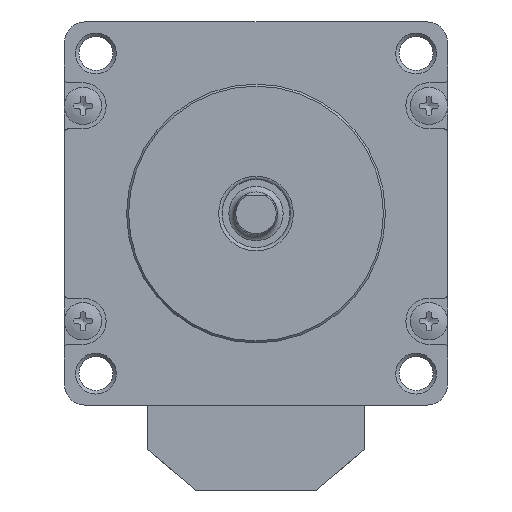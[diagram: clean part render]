
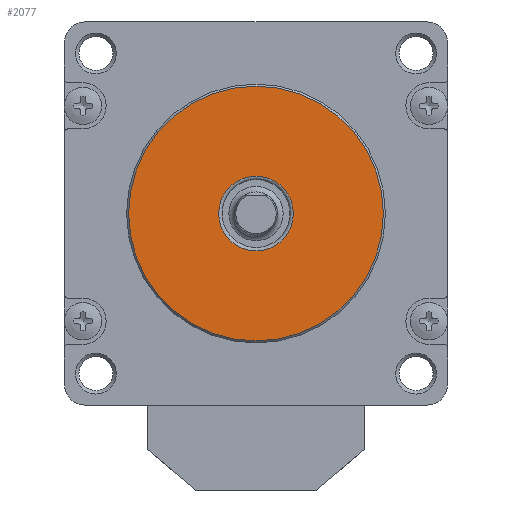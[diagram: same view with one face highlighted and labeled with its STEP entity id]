
A CAD part, front view. The second image highlights one B-rep face of the part: STEP entity #2077.
In plain terms, the highlighted planar face has unit normal (0, -1, 0).
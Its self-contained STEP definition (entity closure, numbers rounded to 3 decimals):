
#1269=CARTESIAN_POINT('',(5.5,-12.6,0.));
#1270=VERTEX_POINT('',#1269);
#1280=CARTESIAN_POINT('',(0.,-12.6,0.));
#1281=DIRECTION('',(1.,0.,0.));
#1282=DIRECTION('',(0.,-1.,0.));
#1283=AXIS2_PLACEMENT_3D('',#1280,#1282,#1281);
#1284=CIRCLE('',#1283,5.5);
#1285=EDGE_CURVE('',#1270,#1270,#1284,.T.);
#2058=CARTESIAN_POINT('',(-5.104,-12.6,0.));
#2059=DIRECTION('',(1.,0.,0.));
#2060=DIRECTION('',(0.,-1.,0.));
#2061=AXIS2_PLACEMENT_3D('',#2058,#2060,#2059);
#2062=PLANE('',#2061);
#2063=CARTESIAN_POINT('',(18.75,-12.6,0.));
#2064=VERTEX_POINT('',#2063);
#2065=CARTESIAN_POINT('',(0.,-12.6,0.));
#2066=DIRECTION('',(1.,0.,0.));
#2067=DIRECTION('',(0.,1.,0.));
#2068=AXIS2_PLACEMENT_3D('',#2065,#2067,#2066);
#2069=CIRCLE('',#2068,18.75);
#2070=EDGE_CURVE('',#2064,#2064,#2069,.T.);
#2071=ORIENTED_EDGE('E256',*,*,#2070,.F.);
#2072=EDGE_LOOP('',(#2071));
#2073=FACE_OUTER_BOUND('',#2072,.T.);
#2074=ORIENTED_EDGE('',*,*,#1285,.F.);
#2075=EDGE_LOOP('',(#2074));
#2076=FACE_BOUND('',#2075,.T.);
#2077=ADVANCED_FACE('F8',(#2073,#2076),#2062,.T.);
